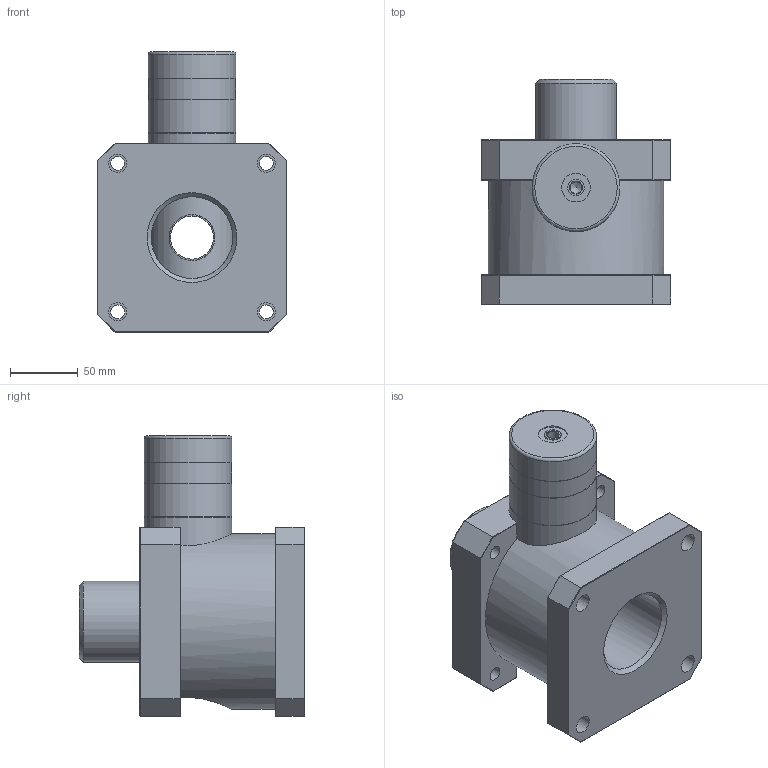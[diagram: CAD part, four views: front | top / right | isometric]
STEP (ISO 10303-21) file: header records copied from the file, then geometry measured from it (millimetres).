
FILE_DESCRIPTION(('STEP AP242'),'1');
FILE_NAME('A.6032 + MA.7125 Feststellpatrone mit Zylinderaufnahme.stp','2026-07-01T13:22:07',(' '),(' '),'Spatial InterOp 3D',' ',' ');
FILE_SCHEMA(('AP242_MANAGED_MODEL_BASED_3D_ENGINEERING_MIM_LF {1 0 10303 442 1 1 4}'));
Length unit declared in the file: millimetre
Products named in the file (3): A.6032 + MA.7125 Feststellpatrone mit Zylinderaufnahme; MV.5125.02; A.6032 Feststellpatrone
Assembly tree (2 placements, depth 2):
  A.6032 + MA.7125 Feststellpatrone mit Zylinderaufnahme
    MV.5125.02
    A.6032 Feststellpatrone
Bounding box: 140 x 167 x 207.5 mm (x, y, z)
Volume: 1974102.9 mm3; surface area: 198201.8 mm2
Topology: 2 solids, 2 shells, 97 faces, 222 edges, 135 vertices
Faces by surface type: plane 64, cylinder 24, cone 7, torus 2
Full cylindrical faces by diameter (mm): 8.566 x2, 10.2 x4, 12.3 x1, 13.5 x4, 21.3 x1, 32 x2, 34 x2, 60 x1, 60.5 x1, 64.5 x1, 65 x4, 130 x1
Entity records: 4095 total; most frequent: CARTESIAN_POINT 1027, DIRECTION 430, ORIENTED_EDGE 362, EDGE_CURVE 181, EDGE_LOOP 160, AXIS2_PLACEMENT_3D 155, VERTEX_POINT 128, FACE_OUTER_BOUND 123
